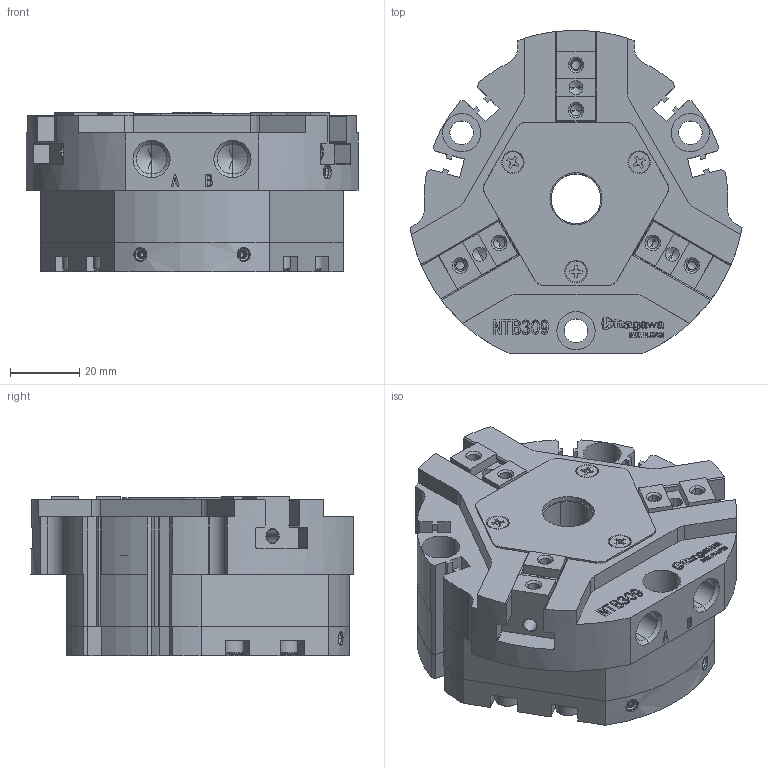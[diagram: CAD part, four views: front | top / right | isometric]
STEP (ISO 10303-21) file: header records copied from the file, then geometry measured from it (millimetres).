
FILE_DESCRIPTION (( 'STEP AP214' ), '1' );
FILE_NAME ('NTB309-OC.STEP', '2026-03-03T11:21:55', ( '' ), ( '' ), 'SwSTEP 2.0', 'SolidWorks 2022', '' );
FILE_SCHEMA (( 'AUTOMOTIVE_DESIGN' ));
Length unit declared in the file: millimetre
Products named in the file (10): MASTER JAW^HP-NTB309; COVER^HP-NTB309; BOLT^HP-NTB309; S-TOME1^HP-NTB309; REAR BODY^HP-NTB309; NTB309-OC; S-TOME2^HP-NTB309; S-SARA^HP-NTB309; PIPE^HP-NTB309; BODY^HP-NTB309
Assembly tree (21 placements, depth 2):
  NTB309-OC
    BODY^HP-NTB309
    REAR BODY^HP-NTB309
    MASTER JAW^HP-NTB309  x3
    PIPE^HP-NTB309
    COVER^HP-NTB309
    BOLT^HP-NTB309  x6
    S-TOME1^HP-NTB309  x3
    S-SARA^HP-NTB309  x3
    S-TOME2^HP-NTB309  x2
Bounding box: 95.59 x 92.92 x 46 mm (x, y, z)
Volume: 229569.4 mm3; surface area: 69532.1 mm2
Topology: 21 solids, 21 shells, 1930 faces, 5280 edges, 3419 vertices
Faces by surface type: plane 1305, cylinder 270, cone 216, bspline 137, torus 2
Entity records: 69095 total; most frequent: CARTESIAN_POINT 16437, ORIENTED_EDGE 8932, DIRECTION 7556, EDGE_CURVE 4466, LINE 3646, VECTOR 3646, VERTEX_POINT 2946, AXIS2_PLACEMENT_3D 1955
